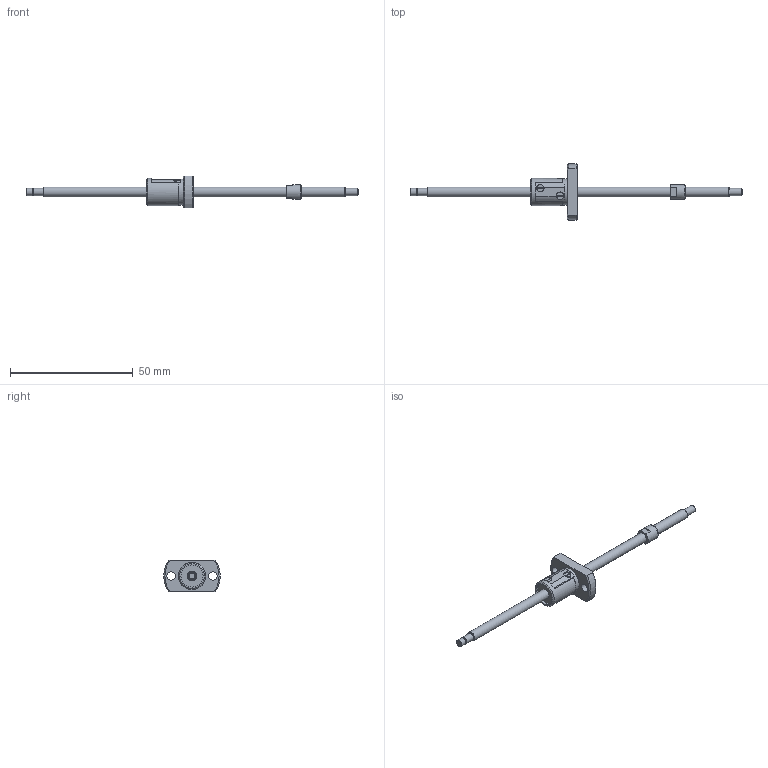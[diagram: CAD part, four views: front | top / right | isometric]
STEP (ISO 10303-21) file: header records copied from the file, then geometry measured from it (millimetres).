
FILE_DESCRIPTION(/* description */ ('STEP AP214'),/* implementation_level */ '2;1');
FILE_NAME(/* name */ 'SG0402-096R135C3B0X(42)',/* time_stamp */ '2026-07-20T19:40:41+02:00',/* author */ ('License CC BY-ND 4.0'),/* organization */ ('CADENAS'),/* preprocessor_version */ 'ST-DEVELOPER v20',/* originating_system */ 'PARTsolutions',/* authorisation */ ' ');
FILE_SCHEMA (('MODEL_BASED_INTEGRATED_MANUFACTURING_SCHEMA','AP242_MANAGED_MODEL_BASED_3D_ENGINEERING_MIM_LF { 1 0 10303 442 3 1 4 }','AUTOMOTIVE_DESIGN {1 0 10303 214 3 1 1}'));
Length unit declared in the file: millimetre
Products named in the file (3): SG0402-096R135C3B0X(42); SG0402-96R135C3B_shaft; SG0402_nut
Assembly tree (2 placements, depth 2):
  SG0402-096R135C3B0X(42)
    SG0402-96R135C3B_shaft
    SG0402_nut
Bounding box: 135 x 22.92 x 13 mm (x, y, z)
Volume: 3791.5 mm3; surface area: 3408.5 mm2
Topology: 2 solids, 2 shells, 80 faces, 194 edges, 125 vertices
Faces by surface type: plane 43, cylinder 26, cone 10, torus 1
Full cylindrical faces by diameter (mm): 1.78 x2, 2.7 x1, 3 x5, 3.4 x2, 4 x3, 6 x1, 9 x2, 10.6 x1, 11 x1
Entity records: 2227 total; most frequent: CARTESIAN_POINT 399, DIRECTION 384, ORIENTED_EDGE 316, AXIS2_PLACEMENT_3D 159, EDGE_CURVE 158, EDGE_LOOP 120, FACE_BOUND 120, VERTEX_POINT 116
